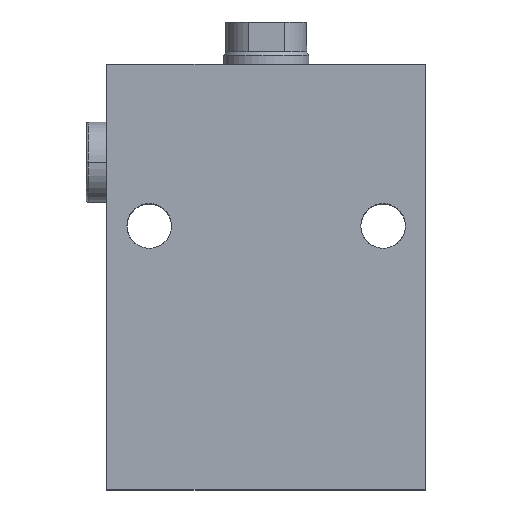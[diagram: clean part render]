
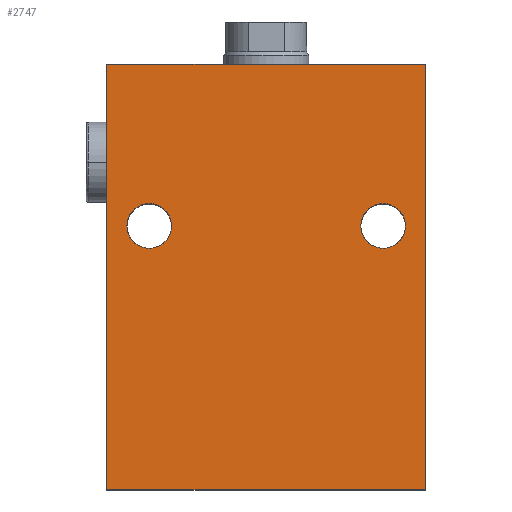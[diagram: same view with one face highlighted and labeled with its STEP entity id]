
A CAD part, top view. The second image highlights one B-rep face of the part: STEP entity #2747.
In plain terms, the highlighted planar face has unit normal (0, 0, 1).
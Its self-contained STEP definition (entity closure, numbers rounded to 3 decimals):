
#42 = EDGE_CURVE ( 'NONE', #185, #4270, #921, .T. ) ;
#185 = VERTEX_POINT ( 'NONE', #3751 ) ;
#201 = DIRECTION ( 'NONE',  ( 0., -1., 0. ) ) ;
#302 = ORIENTED_EDGE ( 'NONE', *, *, #2280, .F. ) ;
#353 = LINE ( 'NONE', #3908, #3915 ) ;
#395 = ORIENTED_EDGE ( 'NONE', *, *, #1280, .F. ) ;
#493 = DIRECTION ( 'NONE',  ( 1., 0., 0. ) ) ;
#498 = VECTOR ( 'NONE', #771, 1000. ) ;
#510 = VECTOR ( 'NONE', #201, 1000. ) ;
#633 = CARTESIAN_POINT ( 'NONE',  ( 27.5, 62., 27.5 ) ) ;
#670 = EDGE_CURVE ( 'NONE', #4239, #3808, #3969, .T. ) ;
#677 = CARTESIAN_POINT ( 'NONE',  ( -27.5, 62., 27.5 ) ) ;
#697 = FACE_OUTER_BOUND ( 'NONE', #882, .T. ) ;
#738 = CARTESIAN_POINT ( 'NONE',  ( -22.25, 62., 27.5 ) ) ;
#771 = DIRECTION ( 'NONE',  ( 1., 0., 0. ) ) ;
#882 = EDGE_LOOP ( 'NONE', ( #1368, #395, #302, #2429 ) ) ;
#921 = LINE ( 'NONE', #2878, #510 ) ;
#924 = CIRCLE ( 'NONE', #2895, 5.25 ) ;
#978 = CARTESIAN_POINT ( 'NONE',  ( -37.5, 50., 27.5 ) ) ;
#1107 = ORIENTED_EDGE ( 'NONE', *, *, #1385, .F. ) ;
#1150 = EDGE_CURVE ( 'NONE', #4113, #1672, #924, .T. ) ;
#1209 = CARTESIAN_POINT ( 'NONE',  ( 37.5, 0., 27.5 ) ) ;
#1280 = EDGE_CURVE ( 'NONE', #2117, #4064, #353, .T. ) ;
#1288 = DIRECTION ( 'NONE',  ( 0., 0., 1. ) ) ;
#1335 = DIRECTION ( 'NONE',  ( 0., 0., 1. ) ) ;
#1368 = ORIENTED_EDGE ( 'NONE', *, *, #2910, .T. ) ;
#1385 = EDGE_CURVE ( 'NONE', #3808, #4239, #2005, .T. ) ;
#1476 = LINE ( 'NONE', #2150, #1996 ) ;
#1567 = AXIS2_PLACEMENT_3D ( 'NONE', #633, #1288, #3621 ) ;
#1577 = DIRECTION ( 'NONE',  ( 1., 0., 0. ) ) ;
#1586 = ORIENTED_EDGE ( 'NONE', *, *, #2882, .F. ) ;
#1666 = DIRECTION ( 'NONE',  ( 1., 0., 0. ) ) ;
#1672 = VERTEX_POINT ( 'NONE', #738 ) ;
#1757 = AXIS2_PLACEMENT_3D ( 'NONE', #677, #1335, #1666 ) ;
#1800 = DIRECTION ( 'NONE',  ( 0., 0., 1. ) ) ;
#1874 = ORIENTED_EDGE ( 'NONE', *, *, #670, .F. ) ;
#1996 = VECTOR ( 'NONE', #493, 1000. ) ;
#2005 = CIRCLE ( 'NONE', #4111, 5.25 ) ;
#2117 = VERTEX_POINT ( 'NONE', #3779 ) ;
#2150 = CARTESIAN_POINT ( 'NONE',  ( -37.5, 100., 27.5 ) ) ;
#2218 = PLANE ( 'NONE',  #4273 ) ;
#2279 = DIRECTION ( 'NONE',  ( -1., 0., 0. ) ) ;
#2280 = EDGE_CURVE ( 'NONE', #185, #2117, #1476, .T. ) ;
#2318 = CARTESIAN_POINT ( 'NONE',  ( 22.25, 62., 27.5 ) ) ;
#2429 = ORIENTED_EDGE ( 'NONE', *, *, #42, .T. ) ;
#2482 = EDGE_LOOP ( 'NONE', ( #1107, #1874 ) ) ;
#2747 = ADVANCED_FACE ( 'NONE', ( #2784, #2845, #697 ), #2218, .F. ) ;
#2784 = FACE_BOUND ( 'NONE', #2482, .T. ) ;
#2845 = FACE_BOUND ( 'NONE', #3591, .T. ) ;
#2878 = CARTESIAN_POINT ( 'NONE',  ( -37.5, 50., 27.5 ) ) ;
#2882 = EDGE_CURVE ( 'NONE', #1672, #4113, #3895, .T. ) ;
#2895 = AXIS2_PLACEMENT_3D ( 'NONE', #3132, #1800, #4163 ) ;
#2910 = EDGE_CURVE ( 'NONE', #4270, #4064, #4331, .T. ) ;
#2974 = CARTESIAN_POINT ( 'NONE',  ( -37.5, 0., 27.5 ) ) ;
#3132 = CARTESIAN_POINT ( 'NONE',  ( -27.5, 62., 27.5 ) ) ;
#3389 = CARTESIAN_POINT ( 'NONE',  ( -37.5, 0., 27.5 ) ) ;
#3571 = DIRECTION ( 'NONE',  ( 0., -1., 0. ) ) ;
#3587 = DIRECTION ( 'NONE',  ( 0., 0., 1. ) ) ;
#3591 = EDGE_LOOP ( 'NONE', ( #1586, #3928 ) ) ;
#3594 = CARTESIAN_POINT ( 'NONE',  ( -32.75, 62., 27.5 ) ) ;
#3621 = DIRECTION ( 'NONE',  ( 1., 0., 0. ) ) ;
#3624 = DIRECTION ( 'NONE',  ( 0., 0., -1. ) ) ;
#3751 = CARTESIAN_POINT ( 'NONE',  ( -37.5, 100., 27.5 ) ) ;
#3779 = CARTESIAN_POINT ( 'NONE',  ( 37.5, 100., 27.5 ) ) ;
#3804 = CARTESIAN_POINT ( 'NONE',  ( 32.75, 62., 27.5 ) ) ;
#3808 = VERTEX_POINT ( 'NONE', #3804 ) ;
#3895 = CIRCLE ( 'NONE', #1757, 5.25 ) ;
#3908 = CARTESIAN_POINT ( 'NONE',  ( 37.5, 50., 27.5 ) ) ;
#3915 = VECTOR ( 'NONE', #3571, 1000. ) ;
#3928 = ORIENTED_EDGE ( 'NONE', *, *, #1150, .F. ) ;
#3969 = CIRCLE ( 'NONE', #1567, 5.25 ) ;
#4064 = VERTEX_POINT ( 'NONE', #1209 ) ;
#4111 = AXIS2_PLACEMENT_3D ( 'NONE', #4329, #3587, #1577 ) ;
#4113 = VERTEX_POINT ( 'NONE', #3594 ) ;
#4163 = DIRECTION ( 'NONE',  ( 1., 0., 0. ) ) ;
#4239 = VERTEX_POINT ( 'NONE', #2318 ) ;
#4270 = VERTEX_POINT ( 'NONE', #2974 ) ;
#4273 = AXIS2_PLACEMENT_3D ( 'NONE', #978, #3624, #2279 ) ;
#4329 = CARTESIAN_POINT ( 'NONE',  ( 27.5, 62., 27.5 ) ) ;
#4331 = LINE ( 'NONE', #3389, #498 ) ;
